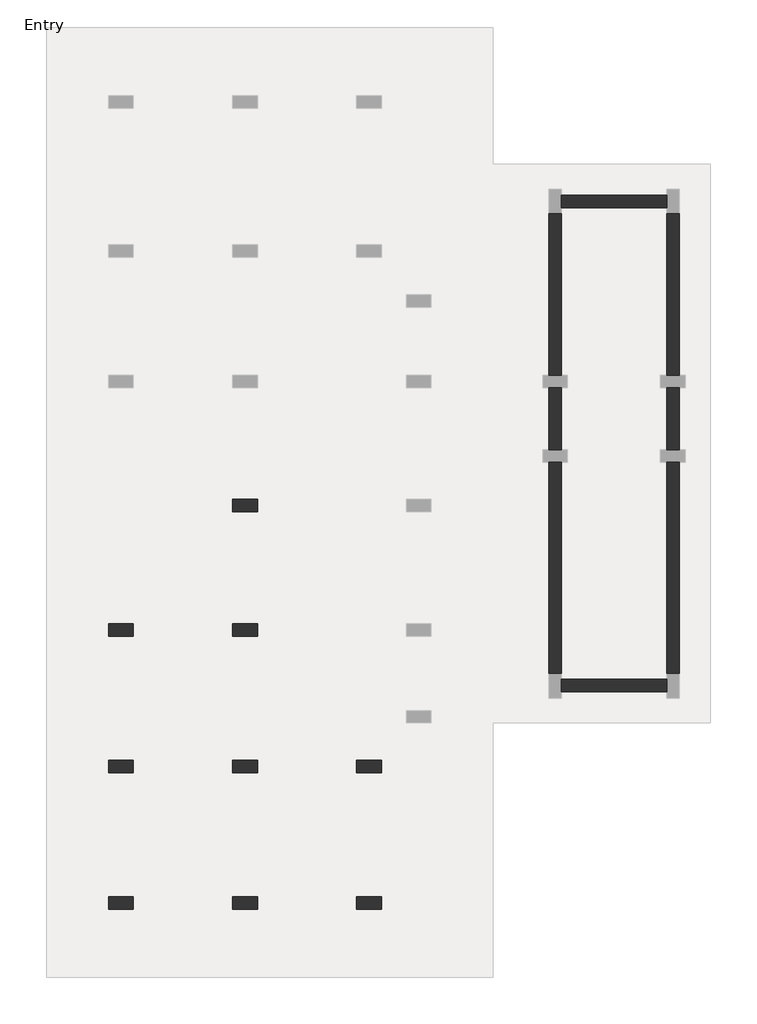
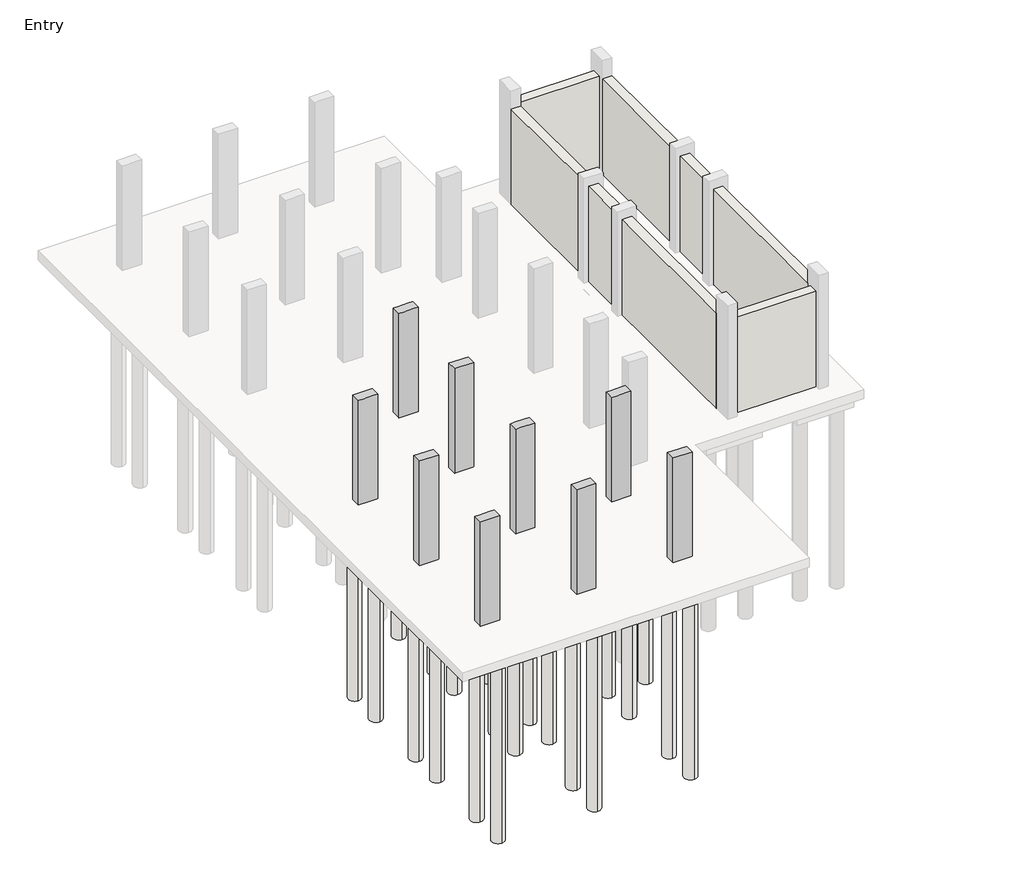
# One storey, part 1 of 3: 31 slabs, 9 columns, 8 walls.
"""IFC4 building model written with IfcOpenShell, lengths in millimetres."""

import ifcopenshell
import ifcopenshell.guid

model = None  # the IFC model being written
_history = None  # IfcOwnerHistory: only IFC2X3 demands one
_inside = {}  # id of a spatial element -> (the spatial element, [elements in it])
_under = {}  # id of a project, library or spatial element -> (it, [spatial elements below it])
_declared = {}  # id of a project -> (the project, [libraries it declares])
_typed = {}  # id of a type object -> (the type object, [elements of that type])
_made_of = {}  # id of a material, layer set ... -> (it, [elements and type objects made of it])


def new_model(schema):
    """Start an empty IFC model of exactly this schema.

    Asked for "IFC4X3", IfcOpenShell would pick the latest addendum, in which some entities
    have other attributes; the version numbers below select the first issue.
    IFC2X3 requires an IfcOwnerHistory on every rooted entity: one is made here for all.
    """
    global model, _history
    if schema == "IFC4X3":
        model = ifcopenshell.file(schema_version=(4, 3, 0, 0))
    else:
        model = ifcopenshell.file(schema=schema)
    _inside.clear()
    _under.clear()
    _declared.clear()
    _typed.clear()
    _made_of.clear()
    _history = None
    if model.schema == "IFC2X3":
        org = make("IfcOrganization", Name="unknown")
        user = make(
            "IfcPersonAndOrganization",
            ThePerson=make("IfcPerson", FamilyName="unknown"),
            TheOrganization=org,
        )
        app = make(
            "IfcApplication",
            ApplicationDeveloper=org,
            Version="unknown",
            ApplicationFullName="unknown",
            ApplicationIdentifier="unknown",
        )
        _history = make(
            "IfcOwnerHistory",
            OwningUser=user,
            OwningApplication=app,
            ChangeAction="ADDED",
            CreationDate=0,
        )
    return model


def make(cls, **values):
    """One entity of the class cls with the attributes given. An attribute that is None is left unset."""
    return model.create_entity(
        cls, **{name: value for name, value in values.items() if value is not None}
    )


def rooted(cls, **values):
    """An entity with a GlobalId (a new one), such as an element, a storey or a relation."""
    return make(cls, GlobalId=ifcopenshell.guid.new(), OwnerHistory=_history, **values)


def si_unit(unit_type, name, prefix=None):
    """IfcSIUnit, for example si_unit("LENGTHUNIT", "METRE", prefix="MILLI")."""
    return make("IfcSIUnit", UnitType=unit_type, Prefix=prefix, Name=name)


def assignment(units):
    """IfcUnitAssignment: the units of a project."""
    return None if units is None else make("IfcUnitAssignment", Units=units)


def point(xyz):
    """IfcCartesianPoint."""
    return None if xyz is None else make("IfcCartesianPoint", Coordinates=xyz)


def direction(xyz):
    """IfcDirection."""
    return None if xyz is None else make("IfcDirection", DirectionRatios=xyz)


def frame(location, z_axis=None, x_axis=None):
    """IfcAxis2Placement3D, a coordinate frame: its origin and axes. An axis left out is left unset."""
    return make(
        "IfcAxis2Placement3D",
        Location=point(location),
        Axis=direction(z_axis),
        RefDirection=direction(x_axis),
    )


def frame_2d(location, x_axis=None):
    """IfcAxis2Placement2D, a coordinate frame in the plane: its origin and x axis."""
    return make(
        "IfcAxis2Placement2D", Location=point(location), RefDirection=direction(x_axis)
    )


def origin():
    """The frame at (0, 0, 0) with its axes left unset."""
    return frame((0.0, 0.0, 0.0))


def origin_with_axes():
    """The frame at (0, 0, 0) with the z axis (0, 0, 1) and the x axis (1, 0, 0) written out."""
    return frame((0.0, 0.0, 0.0), z_axis=(0.0, 0.0, 1.0), x_axis=(1.0, 0.0, 0.0))


def place(relative_to, where):
    """IfcLocalPlacement: puts the frame where relative to a parent placement (None: the world)."""
    return make(
        "IfcLocalPlacement", PlacementRelTo=relative_to, RelativePlacement=where
    )


def context(
    kind, dimensions, precision=None, world=None, true_north=None, identifier=None
):
    """IfcGeometricRepresentationContext, for example the 3D "Model" context."""
    return make(
        "IfcGeometricRepresentationContext",
        ContextIdentifier=identifier,
        ContextType=kind,
        CoordinateSpaceDimension=dimensions,
        Precision=precision,
        WorldCoordinateSystem=world,
        TrueNorth=true_north,
    )


def project(units=None, contexts=None):
    """IfcProject with its units and contexts."""
    return rooted(
        "IfcProject",
        Name="project",
        RepresentationContexts=contexts,
        UnitsInContext=assignment(units),
    )


def spatial(cls, under=None, at=None, **own):
    """A site, building, storey or space (cls), placed at a placement, below another one or the project."""
    s = rooted(cls, ObjectPlacement=at, **own)
    if under is not None:
        _under.setdefault(under.id(), (under, []))[1].append(s)
    return s


def polyline(points):
    """IfcPolyline through the points."""
    return make("IfcPolyline", Points=[point(p) for p in points])


def circle_curve(where, radius):
    """IfcCircle in the frame where."""
    return make("IfcCircle", Position=where, Radius=radius)


def trimmed(basis, trim1, trim2, sense, master):
    """IfcTrimmedCurve: the piece of a basis curve between two trims."""
    return make(
        "IfcTrimmedCurve",
        BasisCurve=basis,
        Trim1=trim1,
        Trim2=trim2,
        SenseAgreement=sense,
        MasterRepresentation=master,
    )


def segment(curve, same_sense, transition):
    """IfcCompositeCurveSegment."""
    return make(
        "IfcCompositeCurveSegment",
        Transition=transition,
        SameSense=same_sense,
        ParentCurve=curve,
    )


def composite_curve(segments, self_intersect=None):
    """IfcCompositeCurve: segments joined end to end."""
    return make("IfcCompositeCurve", Segments=segments, SelfIntersect=self_intersect)


def outline(outer, holes=None, kind="AREA"):
    """IfcArbitraryClosedProfileDef: a profile drawn as a closed curve; with holes, ...WithVoids."""
    if holes is None:
        return make("IfcArbitraryClosedProfileDef", ProfileType=kind, OuterCurve=outer)
    return make(
        "IfcArbitraryProfileDefWithVoids",
        ProfileType=kind,
        OuterCurve=outer,
        InnerCurves=holes,
    )


def extrude(swept, where, along, depth):
    """IfcExtrudedAreaSolid: the profile swept, set in the frame where, extruded along a direction by depth."""
    return make(
        "IfcExtrudedAreaSolid",
        SweptArea=swept,
        Position=where,
        ExtrudedDirection=direction(along),
        Depth=depth,
    )


def faces_of(points, faces, orient=None, outer=None):
    """IfcFace entities. A face is a list of loops; a loop is a list of indices into points, from 0.

    orient and outer hold one flag for each loop. By default every Orientation is true, the
    first loop of a face is its IfcFaceOuterBound and the others are IfcFaceBound.
    """
    made = []
    for i, loops in enumerate(faces):
        bounds = []
        for j, loop in enumerate(loops):
            is_outer = j == 0 if outer is None else outer[i][j]
            bounds.append(
                make(
                    "IfcFaceOuterBound" if is_outer else "IfcFaceBound",
                    Bound=make("IfcPolyLoop", Polygon=[points[k] for k in loop]),
                    Orientation=True if orient is None else orient[i][j],
                )
            )
        made.append(make("IfcFace", Bounds=bounds))
    return made


def faceted_brep(points, faces, orient=None, outer=None, voids=None):
    """IfcFacetedBrep: a solid bounded by flat faces; with voids (closed shells), ...WithVoids."""
    shared = [point(p) for p in points]
    hull = make("IfcClosedShell", CfsFaces=faces_of(shared, faces, orient, outer))
    if voids is None:
        return make("IfcFacetedBrep", Outer=hull)
    return make(
        "IfcFacetedBrepWithVoids",
        Outer=hull,
        Voids=[
            make(cls, CfsFaces=faces_of(shared, fs, o, b)) for cls, fs, o, b in voids
        ],
    )


def shape(context_of_items, identifier, shape_type, items):
    """IfcShapeRepresentation: the items that make up one representation, for example the "Body"."""
    return make(
        "IfcShapeRepresentation",
        ContextOfItems=context_of_items,
        RepresentationIdentifier=identifier,
        RepresentationType=shape_type,
        Items=items,
    )


def made_of(thing, what):
    """Note that an element or type object is made of a material, layer set ...; save() writes the relation."""
    if what is not None:
        _made_of.setdefault(what.id(), (what, []))[1].append(thing)
    return thing


def element(
    cls,
    number,
    at=None,
    inside=None,
    cuts=None,
    type_object=None,
    material=None,
    context=None,
    identifier="Body",
    shape_type=None,
    held_by="IfcProductDefinitionShape",
    body=None,
    shapes=None,
    **own,
):
    """One element of the class cls, such as IfcWall. Its Tag is "e" and its number.

    at: its placement. inside: the storey or other place that contains it. cuts: it is an
    opening in that element (IfcRelVoidsElement). A single representation is given by context,
    identifier, shape_type and body (its items); several are given by shapes. held_by: the class
    of the entity that holds the representations. save() writes the other relations.
    """
    e = rooted(cls, Tag="e%d" % number, ObjectPlacement=at, **own)
    if body is not None:
        shapes = [shape(context, identifier, shape_type, body)]
    if shapes is not None:
        e.Representation = make(held_by, Representations=shapes)
    if inside is not None:
        _inside.setdefault(inside.id(), (inside, []))[1].append(e)
    if cuts is not None:
        rooted(
            "IfcRelVoidsElement", RelatingBuildingElement=cuts, RelatedOpeningElement=e
        )
    if type_object is not None:
        _typed.setdefault(type_object.id(), (type_object, []))[1].append(e)
    return made_of(e, material)


def aggregate(whole, parts):
    """IfcRelAggregates: a whole, such as a stair, and the parts it consists of."""
    return rooted("IfcRelAggregates", RelatingObject=whole, RelatedObjects=parts)


def save(model, path):
    """Write the relations noted so far, then the file.

    IfcRelAggregates (storeys below a building ...), IfcRelContainedInSpatialStructure (elements
    in a storey), IfcRelDefinesByType, IfcRelAssociatesMaterial and IfcRelDeclares: one each for
    every whole, place, type object, material and project.
    """
    for whole, parts in _under.values():
        aggregate(whole, parts)
    for where, things in _inside.values():
        rooted(
            "IfcRelContainedInSpatialStructure",
            RelatedElements=things,
            RelatingStructure=where,
        )
    for kind, things in _typed.values():
        rooted("IfcRelDefinesByType", RelatedObjects=things, RelatingType=kind)
    for what, things in _made_of.values():
        rooted("IfcRelAssociatesMaterial", RelatedObjects=things, RelatingMaterial=what)
    for by, libraries in _declared.values():
        rooted("IfcRelDeclares", RelatingContext=by, RelatedDefinitions=libraries)
    model.write(path)


model = new_model("IFC4")

# Units and contexts
model_context = context("Model", 3, world=origin())
ifc_project = project(units=[si_unit("LENGTHUNIT", "METRE", prefix="MILLI")], contexts=[model_context])

# Site, building, storey
site = spatial("IfcSite", under=ifc_project)
building = spatial("IfcBuilding", under=site)
storey = spatial("IfcBuildingStorey", under=building, Name="Entry", Elevation=0.0)

# Columns
placement = place(None, origin())
element("IfcColumn", 1, ObjectType="Concrete-Rectangular-Column : 12 x 24", at=placement, inside=storey, context=model_context, shape_type="Brep", body=[
    faceted_brep([(-10423.1073204, 13863.0572372, 0.0), (-9813.5073204, 13863.0572372, 0.0), (-9813.5073204, 13558.2572372, 0.0), (-10423.1073204, 13558.2572372, 0.0), (-10423.1073204, 13863.0572372, 3505.2), (-10270.7073204, 13863.0572372, 3505.2), (-9965.9073204, 13863.0572372, 3505.2), (-9813.5073204, 13863.0572372, 3505.2), (-9813.5073204, 13863.0572372, 2895.6), (-9813.5073204, 13558.2572372, 3505.2), (-9813.5073204, 13558.2572372, 2895.6), (-9965.9073204, 13558.2572372, 3505.2), (-10270.7073204, 13558.2572372, 3505.2), (-10423.1073204, 13558.2572372, 3505.2)], [[[0, 1, 2, 3]], [[4, 5, 6, 7, 8, 1, 0]], [[7, 9, 10, 2, 1, 8]], [[9, 11, 12, 13, 3, 2, 10]], [[13, 4, 0, 3]], [[4, 13, 12, 11, 9, 7, 6, 5]]]),
])
element("IfcColumn", 2, ObjectType="Concrete-Rectangular-Column : 12 x 24", at=placement, inside=storey, context=model_context, shape_type="Brep", body=[
    faceted_brep([(-13471.1073204, 10815.0572372, 0.0), (-12861.5073204, 10815.0572372, 0.0), (-12861.5073204, 10510.2572372, 0.0), (-13471.1073204, 10510.2572372, 0.0), (-13471.1073204, 10815.0572372, 3505.2), (-12861.5073204, 10815.0572372, 3505.2), (-12861.5073204, 10815.0572372, 2895.6), (-12861.5073204, 10510.2572372, 3505.2), (-12861.5073204, 10510.2572372, 2895.6), (-13013.9073204, 10510.2572372, 3505.2), (-13318.7073204, 10510.2572372, 3505.2), (-13471.1073204, 10510.2572372, 3505.2)], [[[0, 1, 2, 3]], [[4, 5, 6, 1, 0]], [[5, 7, 8, 2, 1, 6]], [[7, 9, 10, 11, 3, 2, 8]], [[11, 4, 0, 3]], [[4, 11, 10, 9, 7, 5]]]),
])
element("IfcColumn", 3, ObjectType="Concrete-Rectangular-Column : 12 x 24", at=placement, inside=storey, context=model_context, shape_type="Brep", body=[
    faceted_brep([(-10423.1073204, 10815.0572372, 0.0), (-9813.5073204, 10815.0572372, 0.0), (-9813.5073204, 10510.2572372, 0.0), (-10423.1073204, 10510.2572372, 0.0), (-10423.1073204, 10815.0572372, 3505.2), (-10270.7073204, 10815.0572372, 3505.2), (-9965.9073204, 10815.0572372, 3505.2), (-9813.5073204, 10815.0572372, 3505.2), (-9813.5073204, 10815.0572372, 2895.6), (-10423.1073204, 10815.0572372, 2895.6), (-9813.5073204, 10510.2572372, 3505.2), (-9813.5073204, 10510.2572372, 2895.6), (-9965.9073204, 10510.2572372, 3505.2), (-10270.7073204, 10510.2572372, 3505.2), (-10423.1073204, 10510.2572372, 3505.2), (-10423.1073204, 10510.2572372, 2895.6)], [[[0, 1, 2, 3]], [[4, 5, 6, 7, 8, 1, 0, 9]], [[7, 10, 11, 2, 1, 8]], [[10, 12, 13, 14, 15, 3, 2, 11]], [[14, 4, 9, 0, 3, 15]], [[4, 14, 13, 12, 10, 7, 6, 5]]]),
])
element("IfcColumn", 4, ObjectType="Concrete-Rectangular-Column : 12 x 24", at=placement, inside=storey, context=model_context, shape_type="Brep", body=[
    faceted_brep([(-7375.8500241, 7462.2572372, 0.0), (-6766.2500241, 7462.2572372, 0.0), (-6766.2500241, 7157.4572372, 0.0), (-7375.8500241, 7157.4572372, 0.0), (-7375.8500241, 7462.2572372, 3505.2), (-7223.4500241, 7462.2572372, 3505.2), (-6918.6500241, 7462.2572372, 3505.2), (-6766.2500241, 7462.2572372, 3505.2), (-7375.8500241, 7462.2572372, 2895.6), (-6766.2500241, 7157.4572372, 3505.2), (-6918.6500241, 7157.4572372, 3505.2), (-7223.4500241, 7157.4572372, 3505.2), (-7375.8500241, 7157.4572372, 3505.2), (-7375.8500241, 7157.4572372, 2895.6)], [[[0, 1, 2, 3]], [[4, 5, 6, 7, 1, 0, 8]], [[7, 9, 2, 1]], [[9, 10, 11, 12, 13, 3, 2]], [[12, 4, 8, 0, 3, 13]], [[4, 12, 11, 10, 9, 7, 6, 5]]]),
])
element("IfcColumn", 5, ObjectType="Concrete-Rectangular-Column : 12 x 24", at=placement, inside=storey, context=model_context, shape_type="Brep", body=[
    faceted_brep([(-10423.1073204, 7462.2572372, 0.0), (-9813.5073204, 7462.2572372, 0.0), (-9813.5073204, 7157.4572372, 0.0), (-10423.1073204, 7157.4572372, 0.0), (-10423.1073204, 7462.2572372, 3505.2), (-10270.7073204, 7462.2572372, 3505.2), (-9965.9073204, 7462.2572372, 3505.2), (-9813.5073204, 7462.2572372, 3505.2), (-9813.5073204, 7462.2572372, 2895.6), (-10423.1073204, 7462.2572372, 2895.6), (-9813.5073204, 7157.4572372, 3505.2), (-9813.5073204, 7157.4572372, 2895.6), (-9965.9073204, 7157.4572372, 3505.2), (-10270.7073204, 7157.4572372, 3505.2), (-10423.1073204, 7157.4572372, 3505.2), (-10423.1073204, 7157.4572372, 2895.6)], [[[0, 1, 2, 3]], [[4, 5, 6, 7, 8, 1, 0, 9]], [[7, 10, 11, 2, 1, 8]], [[10, 12, 13, 14, 15, 3, 2, 11]], [[14, 4, 9, 0, 3, 15]], [[4, 14, 13, 12, 10, 7, 6, 5]]]),
])
element("IfcColumn", 6, ObjectType="Concrete-Rectangular-Column : 12 x 24", at=placement, inside=storey, context=model_context, shape_type="Brep", body=[
    faceted_brep([(-13471.1073204, 7462.2572372, 0.0), (-12861.5073204, 7462.2572372, 0.0), (-12861.5073204, 7157.4572372, 0.0), (-13471.1073204, 7157.4572372, 0.0), (-13471.1073204, 7462.2572372, 3505.2), (-13318.7073204, 7462.2572372, 3505.2), (-13013.9073204, 7462.2572372, 3505.2), (-12861.5073204, 7462.2572372, 3505.2), (-12861.5073204, 7462.2572372, 2895.6), (-12861.5073204, 7157.4572372, 3505.2), (-12861.5073204, 7157.4572372, 2895.6), (-13013.9073204, 7157.4572372, 3505.2), (-13318.7073204, 7157.4572372, 3505.2), (-13471.1073204, 7157.4572372, 3505.2)], [[[0, 1, 2, 3]], [[4, 5, 6, 7, 8, 1, 0]], [[7, 9, 10, 2, 1, 8]], [[9, 11, 12, 13, 3, 2, 10]], [[13, 4, 0, 3]], [[4, 13, 12, 11, 9, 7, 6, 5]]]),
])
element("IfcColumn", 7, ObjectType="Concrete-Rectangular-Column : 12 x 24", at=placement, inside=storey, context=model_context, shape_type="Brep", body=[
    faceted_brep([(-13471.1073204, 4109.4572372, 0.0), (-12861.5073204, 4109.4572372, 0.0), (-12861.5073204, 3804.6572372, 0.0), (-13471.1073204, 3804.6572372, 0.0), (-13471.1073204, 4109.4572372, 3505.2), (-13318.7073204, 4109.4572372, 3505.2), (-13013.9073204, 4109.4572372, 3505.2), (-12861.5073204, 4109.4572372, 3505.2), (-12861.5073204, 4109.4572372, 2895.6), (-12861.5073204, 3804.6572372, 3505.2), (-12861.5073204, 3804.6572372, 2895.6), (-13471.1073204, 3804.6572372, 3505.2)], [[[0, 1, 2, 3]], [[4, 5, 6, 7, 8, 1, 0]], [[7, 9, 10, 2, 1, 8]], [[9, 11, 3, 2, 10]], [[11, 4, 0, 3]], [[4, 11, 9, 7, 6, 5]]]),
])
element("IfcColumn", 8, ObjectType="Concrete-Rectangular-Column : 12 x 24", at=placement, inside=storey, context=model_context, shape_type="Brep", body=[
    faceted_brep([(-10423.1073204, 4109.4572372, 0.0), (-9813.5073204, 4109.4572372, 0.0), (-9813.5073204, 3804.6572372, 0.0), (-10423.1073204, 3804.6572372, 0.0), (-10423.1073204, 4109.4572372, 3505.2), (-10270.7073204, 4109.4572372, 3505.2), (-9965.9073204, 4109.4572372, 3505.2), (-9813.5073204, 4109.4572372, 3505.2), (-9813.5073204, 4109.4572372, 2895.6), (-10423.1073204, 4109.4572372, 2895.6), (-9813.5073204, 3804.6572372, 3505.2), (-9813.5073204, 3804.6572372, 2895.6), (-10423.1073204, 3804.6572372, 3505.2), (-10423.1073204, 3804.6572372, 2895.6)], [[[0, 1, 2, 3]], [[4, 5, 6, 7, 8, 1, 0, 9]], [[7, 10, 11, 2, 1, 8]], [[10, 12, 13, 3, 2, 11]], [[12, 4, 9, 0, 3, 13]], [[4, 12, 10, 7, 6, 5]]]),
])
element("IfcColumn", 9, ObjectType="Concrete-Rectangular-Column : 12 x 24", at=placement, inside=storey, context=model_context, shape_type="Brep", body=[
    faceted_brep([(-7375.1073204, 4109.4572372, 0.0), (-6765.5073204, 4109.4572372, 0.0), (-6765.5073204, 3804.6572372, 0.0), (-7375.1073204, 3804.6572372, 0.0), (-7375.1073204, 4109.4572372, 3505.2), (-7223.4500241, 4109.4572372, 3505.2), (-6918.6500241, 4109.4572372, 3505.2), (-6765.5073204, 4109.4572372, 3505.2), (-7375.1073204, 4109.4572372, 2895.6), (-6765.5073204, 3804.6572372, 3505.2), (-7375.1073204, 3804.6572372, 3505.2), (-7375.1073204, 3804.6572372, 2895.6)], [[[0, 1, 2, 3]], [[4, 5, 6, 7, 1, 0, 8]], [[7, 9, 2, 1]], [[9, 10, 11, 3, 2]], [[10, 4, 8, 0, 3, 11]], [[4, 10, 9, 7, 6, 5]]]),
])

# Slabs
element("IfcSlab", 10, ObjectType="Pile Cap-2 Pile : 31\"x61\"x35\"", at=placement, inside=storey, context=model_context, shape_type="SweptSolid", body=[
    extrude(outline(polyline([(-13572.7073204, 11551.6572372), (-12759.9073204, 11551.6572372), (-12759.9073204, 9773.6572372), (-13572.7073204, 9773.6572372), (-13572.7073204, 11551.6572372)])), frame((0.0, 0.0, -889.0), z_axis=(0.0, 0.0, 1.0), x_axis=(1.0, 0.0, 0.0)), (0.0, 0.0, 1.0), 584.2),
])
element("IfcSlab", 11, ObjectType="Pile Cap-2 Pile : 31\"x61\"x35\"", at=placement, inside=storey, context=model_context, shape_type="SweptSolid", body=[
    extrude(outline(polyline([(-13572.7073204, 8198.8572372), (-12759.9073204, 8198.8572372), (-12759.9073204, 6420.8572372), (-13572.7073204, 6420.8572372), (-13572.7073204, 8198.8572372)])), frame((0.0, 0.0, -889.0), z_axis=(0.0, 0.0, 1.0), x_axis=(1.0, 0.0, 0.0)), (0.0, 0.0, 1.0), 584.2),
])
element("IfcSlab", 12, ObjectType="Pile Cap-2 Pile : 31\"x61\"x35\"", at=placement, inside=storey, context=model_context, shape_type="SweptSolid", body=[
    extrude(outline(polyline([(-13572.7073204, 4846.0572372), (-12759.9073204, 4846.0572372), (-12759.9073204, 3068.0572372), (-13572.7073204, 3068.0572372), (-13572.7073204, 4846.0572372)])), frame((0.0, 0.0, -889.0), z_axis=(0.0, 0.0, 1.0), x_axis=(1.0, 0.0, 0.0)), (0.0, 0.0, 1.0), 584.2),
])
element("IfcSlab", 13, ObjectType="Pile Cap-2 Pile : 31\"x61\"x35\"", at=placement, inside=storey, context=model_context, shape_type="SweptSolid", body=[
    extrude(outline(polyline([(-10524.7073204, 4846.0572372), (-9711.9073204, 4846.0572372), (-9711.9073204, 3068.0572372), (-10524.7073204, 3068.0572372), (-10524.7073204, 4846.0572372)])), frame((0.0, 0.0, -889.0), z_axis=(0.0, 0.0, 1.0), x_axis=(1.0, 0.0, 0.0)), (0.0, 0.0, 1.0), 584.2),
])
element("IfcSlab", 14, ObjectType="Pile Cap-2 Pile : 31\"x61\"x35\"", at=placement, inside=storey, context=model_context, shape_type="SweptSolid", body=[
    extrude(outline(polyline([(-7476.7073204, 4846.0572372), (-6663.9073204, 4846.0572372), (-6663.9073204, 3068.0572372), (-7476.7073204, 3068.0572372), (-7476.7073204, 4846.0572372)])), frame((0.0, 0.0, -889.0), z_axis=(0.0, 0.0, 1.0), x_axis=(1.0, 0.0, 0.0)), (0.0, 0.0, 1.0), 584.2),
])
element("IfcSlab", 15, ObjectType="Pile Cap-2 Pile : 31\"x61\"x35\"", at=placement, inside=storey, context=model_context, shape_type="SweptSolid", body=[
    extrude(outline(polyline([(-7477.4500241, 8198.8572372), (-6664.6500241, 8198.8572372), (-6664.6500241, 6420.8572372), (-7477.4500241, 6420.8572372), (-7477.4500241, 8198.8572372)])), frame((0.0, 0.0, -889.0), z_axis=(0.0, 0.0, 1.0), x_axis=(1.0, 0.0, 0.0)), (0.0, 0.0, 1.0), 584.2),
])
element("IfcSlab", 16, ObjectType="Pile Cap-4 Pile : 72\"x72\"x35\"", at=placement, inside=storey, context=model_context, shape_type="SweptSolid", body=[
    extrude(outline(polyline([(-11032.7073204, 14625.0572372), (-9203.9073204, 14625.0572372), (-9203.9073204, 12796.2572372), (-11032.7073204, 12796.2572372), (-11032.7073204, 14625.0572372)])), frame((0.0, 0.0, -889.0), z_axis=(0.0, 0.0, 1.0), x_axis=(1.0, 0.0, 0.0)), (0.0, 0.0, 1.0), 584.2),
])
element("IfcSlab", 17, ObjectType="Pile Cap-4 Pile : 72\"x72\"x35\"", at=placement, inside=storey, context=model_context, shape_type="SweptSolid", body=[
    extrude(outline(polyline([(-11032.7073204, 11577.0572372), (-9203.9073204, 11577.0572372), (-9203.9073204, 9748.2572372), (-11032.7073204, 9748.2572372), (-11032.7073204, 11577.0572372)])), frame((0.0, 0.0, -889.0), z_axis=(0.0, 0.0, 1.0), x_axis=(1.0, 0.0, 0.0)), (0.0, 0.0, 1.0), 584.2),
])
element("IfcSlab", 18, ObjectType="Pile Cap-4 Pile : 72\"x72\"x35\"", at=placement, inside=storey, context=model_context, shape_type="SweptSolid", body=[
    extrude(outline(polyline([(-11032.7073204, 8224.2572372), (-9203.9073204, 8224.2572372), (-9203.9073204, 6395.4572372), (-11032.7073204, 6395.4572372), (-11032.7073204, 8224.2572372)])), frame((0.0, 0.0, -889.0), z_axis=(0.0, 0.0, 1.0), x_axis=(1.0, 0.0, 0.0)), (0.0, 0.0, 1.0), 584.2),
])
element("IfcSlab", 19, ObjectType="Pile-Steel Pipe : 16\" Diameter", at=placement, inside=storey, context=model_context, shape_type="SweptSolid", body=[
    extrude(outline(composite_curve([segment(trimmed(circle_curve(frame_2d((-10651.7073204, 13177.2572372)), 203.2), [point((-10651.7073204, 12974.0572372))], [point((-10651.7073204, 13380.4572372))], False, "CARTESIAN"), True, "CONTINUOUS"), segment(trimmed(circle_curve(frame_2d((-10651.7073204, 13177.2572372)), 203.2), [point((-10651.7073204, 13380.4572372))], [point((-10651.7073204, 12974.0572372))], False, "CARTESIAN"), True, "CONTINUOUS")], self_intersect=False)), frame((0.0, 0.0, -6985.0), z_axis=(0.0, 0.0, 1.0), x_axis=(1.0, 0.0, 0.0)), (0.0, 0.0, 1.0), 6096.0),
])
element("IfcSlab", 20, ObjectType="Pile-Steel Pipe : 16\" Diameter", at=placement, inside=storey, context=model_context, shape_type="SweptSolid", body=[
    extrude(outline(composite_curve([segment(trimmed(circle_curve(frame_2d((-10651.7073204, 10129.2572372)), 203.2), [point((-10651.7073204, 9926.0572372))], [point((-10651.7073204, 10332.4572372))], False, "CARTESIAN"), True, "CONTINUOUS"), segment(trimmed(circle_curve(frame_2d((-10651.7073204, 10129.2572372)), 203.2), [point((-10651.7073204, 10332.4572372))], [point((-10651.7073204, 9926.0572372))], False, "CARTESIAN"), True, "CONTINUOUS")], self_intersect=False)), frame((0.0, 0.0, -6985.0), z_axis=(0.0, 0.0, 1.0), x_axis=(1.0, 0.0, 0.0)), (0.0, 0.0, 1.0), 6096.0),
])
element("IfcSlab", 21, ObjectType="Pile-Steel Pipe : 16\" Diameter", at=placement, inside=storey, context=model_context, shape_type="SweptSolid", body=[
    extrude(outline(composite_curve([segment(trimmed(circle_curve(frame_2d((-9584.9073204, 10129.2572372)), 203.2), [point((-9584.9073204, 9926.0572372))], [point((-9584.9073204, 10332.4572372))], False, "CARTESIAN"), True, "CONTINUOUS"), segment(trimmed(circle_curve(frame_2d((-9584.9073204, 10129.2572372)), 203.2), [point((-9584.9073204, 10332.4572372))], [point((-9584.9073204, 9926.0572372))], False, "CARTESIAN"), True, "CONTINUOUS")], self_intersect=False)), frame((0.0, 0.0, -6985.0), z_axis=(0.0, 0.0, 1.0), x_axis=(1.0, 0.0, 0.0)), (0.0, 0.0, 1.0), 6096.0),
])
element("IfcSlab", 22, ObjectType="Pile-Steel Pipe : 16\" Diameter", at=placement, inside=storey, context=model_context, shape_type="SweptSolid", body=[
    extrude(outline(composite_curve([segment(trimmed(circle_curve(frame_2d((-9584.9073204, 11196.0572372)), 203.2), [point((-9584.9073204, 10992.8572372))], [point((-9584.9073204, 11399.2572372))], False, "CARTESIAN"), True, "CONTINUOUS"), segment(trimmed(circle_curve(frame_2d((-9584.9073204, 11196.0572372)), 203.2), [point((-9584.9073204, 11399.2572372))], [point((-9584.9073204, 10992.8572372))], False, "CARTESIAN"), True, "CONTINUOUS")], self_intersect=False)), frame((0.0, 0.0, -6985.0), z_axis=(0.0, 0.0, 1.0), x_axis=(1.0, 0.0, 0.0)), (0.0, 0.0, 1.0), 6096.0),
])
element("IfcSlab", 23, ObjectType="Pile-Steel Pipe : 16\" Diameter", at=placement, inside=storey, context=model_context, shape_type="SweptSolid", body=[
    extrude(outline(composite_curve([segment(trimmed(circle_curve(frame_2d((-10651.7073204, 11196.0572372)), 203.2), [point((-10651.7073204, 10992.8572372))], [point((-10651.7073204, 11399.2572372))], False, "CARTESIAN"), True, "CONTINUOUS"), segment(trimmed(circle_curve(frame_2d((-10651.7073204, 11196.0572372)), 203.2), [point((-10651.7073204, 11399.2572372))], [point((-10651.7073204, 10992.8572372))], False, "CARTESIAN"), True, "CONTINUOUS")], self_intersect=False)), frame((0.0, 0.0, -6985.0), z_axis=(0.0, 0.0, 1.0), x_axis=(1.0, 0.0, 0.0)), (0.0, 0.0, 1.0), 6096.0),
])
element("IfcSlab", 24, ObjectType="Pile-Steel Pipe : 16\" Diameter", at=placement, inside=storey, context=model_context, shape_type="SweptSolid", body=[
    extrude(outline(composite_curve([segment(trimmed(circle_curve(frame_2d((-10651.7073204, 6776.4572372)), 203.2), [point((-10651.7073204, 6573.2572372))], [point((-10651.7073204, 6979.6572372))], False, "CARTESIAN"), True, "CONTINUOUS"), segment(trimmed(circle_curve(frame_2d((-10651.7073204, 6776.4572372)), 203.2), [point((-10651.7073204, 6979.6572372))], [point((-10651.7073204, 6573.2572372))], False, "CARTESIAN"), True, "CONTINUOUS")], self_intersect=False)), frame((0.0, 0.0, -6985.0), z_axis=(0.0, 0.0, 1.0), x_axis=(1.0, 0.0, 0.0)), (0.0, 0.0, 1.0), 6096.0),
])
element("IfcSlab", 25, ObjectType="Pile-Steel Pipe : 16\" Diameter", at=placement, inside=storey, context=model_context, shape_type="SweptSolid", body=[
    extrude(outline(composite_curve([segment(trimmed(circle_curve(frame_2d((-9584.9073204, 6776.4572372)), 203.2), [point((-9584.9073204, 6573.2572372))], [point((-9584.9073204, 6979.6572372))], False, "CARTESIAN"), True, "CONTINUOUS"), segment(trimmed(circle_curve(frame_2d((-9584.9073204, 6776.4572372)), 203.2), [point((-9584.9073204, 6979.6572372))], [point((-9584.9073204, 6573.2572372))], False, "CARTESIAN"), True, "CONTINUOUS")], self_intersect=False)), frame((0.0, 0.0, -6985.0), z_axis=(0.0, 0.0, 1.0), x_axis=(1.0, 0.0, 0.0)), (0.0, 0.0, 1.0), 6096.0),
])
element("IfcSlab", 26, ObjectType="Pile-Steel Pipe : 16\" Diameter", at=placement, inside=storey, context=model_context, shape_type="SweptSolid", body=[
    extrude(outline(composite_curve([segment(trimmed(circle_curve(frame_2d((-9584.9073204, 7843.2572372)), 203.2), [point((-9584.9073204, 7640.0572372))], [point((-9584.9073204, 8046.4572372))], False, "CARTESIAN"), True, "CONTINUOUS"), segment(trimmed(circle_curve(frame_2d((-9584.9073204, 7843.2572372)), 203.2), [point((-9584.9073204, 8046.4572372))], [point((-9584.9073204, 7640.0572372))], False, "CARTESIAN"), True, "CONTINUOUS")], self_intersect=False)), frame((0.0, 0.0, -6985.0), z_axis=(0.0, 0.0, 1.0), x_axis=(1.0, 0.0, 0.0)), (0.0, 0.0, 1.0), 6096.0),
])
element("IfcSlab", 27, ObjectType="Pile-Steel Pipe : 16\" Diameter", at=placement, inside=storey, context=model_context, shape_type="SweptSolid", body=[
    extrude(outline(composite_curve([segment(trimmed(circle_curve(frame_2d((-10651.7073204, 7843.2572372)), 203.2), [point((-10651.7073204, 7640.0572372))], [point((-10651.7073204, 8046.4572372))], False, "CARTESIAN"), True, "CONTINUOUS"), segment(trimmed(circle_curve(frame_2d((-10651.7073204, 7843.2572372)), 203.2), [point((-10651.7073204, 8046.4572372))], [point((-10651.7073204, 7640.0572372))], False, "CARTESIAN"), True, "CONTINUOUS")], self_intersect=False)), frame((0.0, 0.0, -6985.0), z_axis=(0.0, 0.0, 1.0), x_axis=(1.0, 0.0, 0.0)), (0.0, 0.0, 1.0), 6096.0),
])
element("IfcSlab", 28, ObjectType="Pile-Steel Pipe : 16\" Diameter", at=placement, inside=storey, context=model_context, shape_type="SweptSolid", body=[
    extrude(outline(composite_curve([segment(trimmed(circle_curve(frame_2d((-13166.3073204, 10078.4572372)), 203.2), [point((-13166.3073204, 9875.2572372))], [point((-13166.3073204, 10281.6572372))], False, "CARTESIAN"), True, "CONTINUOUS"), segment(trimmed(circle_curve(frame_2d((-13166.3073204, 10078.4572372)), 203.2), [point((-13166.3073204, 10281.6572372))], [point((-13166.3073204, 9875.2572372))], False, "CARTESIAN"), True, "CONTINUOUS")], self_intersect=False)), frame((0.0, 0.0, -6985.0), z_axis=(0.0, 0.0, 1.0), x_axis=(1.0, 0.0, 0.0)), (0.0, 0.0, 1.0), 6096.0),
])
element("IfcSlab", 29, ObjectType="Pile-Steel Pipe : 16\" Diameter", at=placement, inside=storey, context=model_context, shape_type="SweptSolid", body=[
    extrude(outline(composite_curve([segment(trimmed(circle_curve(frame_2d((-13166.3073204, 11246.8572372)), 203.2), [point((-13166.3073204, 11043.6572372))], [point((-13166.3073204, 11450.0572372))], False, "CARTESIAN"), True, "CONTINUOUS"), segment(trimmed(circle_curve(frame_2d((-13166.3073204, 11246.8572372)), 203.2), [point((-13166.3073204, 11450.0572372))], [point((-13166.3073204, 11043.6572372))], False, "CARTESIAN"), True, "CONTINUOUS")], self_intersect=False)), frame((0.0, 0.0, -6985.0), z_axis=(0.0, 0.0, 1.0), x_axis=(1.0, 0.0, 0.0)), (0.0, 0.0, 1.0), 6096.0),
])
element("IfcSlab", 30, ObjectType="Pile-Steel Pipe : 16\" Diameter", at=placement, inside=storey, context=model_context, shape_type="SweptSolid", body=[
    extrude(outline(composite_curve([segment(trimmed(circle_curve(frame_2d((-13166.3073204, 6725.6572372)), 203.2), [point((-13166.3073204, 6522.4572372))], [point((-13166.3073204, 6928.8572372))], False, "CARTESIAN"), True, "CONTINUOUS"), segment(trimmed(circle_curve(frame_2d((-13166.3073204, 6725.6572372)), 203.2), [point((-13166.3073204, 6928.8572372))], [point((-13166.3073204, 6522.4572372))], False, "CARTESIAN"), True, "CONTINUOUS")], self_intersect=False)), frame((0.0, 0.0, -6985.0), z_axis=(0.0, 0.0, 1.0), x_axis=(1.0, 0.0, 0.0)), (0.0, 0.0, 1.0), 6096.0),
])
element("IfcSlab", 31, ObjectType="Pile-Steel Pipe : 16\" Diameter", at=placement, inside=storey, context=model_context, shape_type="SweptSolid", body=[
    extrude(outline(composite_curve([segment(trimmed(circle_curve(frame_2d((-13166.3073204, 7894.0572372)), 203.2), [point((-13166.3073204, 7690.8572372))], [point((-13166.3073204, 8097.2572372))], False, "CARTESIAN"), True, "CONTINUOUS"), segment(trimmed(circle_curve(frame_2d((-13166.3073204, 7894.0572372)), 203.2), [point((-13166.3073204, 8097.2572372))], [point((-13166.3073204, 7690.8572372))], False, "CARTESIAN"), True, "CONTINUOUS")], self_intersect=False)), frame((0.0, 0.0, -6985.0), z_axis=(0.0, 0.0, 1.0), x_axis=(1.0, 0.0, 0.0)), (0.0, 0.0, 1.0), 6096.0),
])
element("IfcSlab", 32, ObjectType="Pile-Steel Pipe : 16\" Diameter", at=placement, inside=storey, context=model_context, shape_type="SweptSolid", body=[
    extrude(outline(composite_curve([segment(trimmed(circle_curve(frame_2d((-13166.3073204, 3372.8572372)), 203.2), [point((-13166.3073204, 3169.6572372))], [point((-13166.3073204, 3576.0572372))], False, "CARTESIAN"), True, "CONTINUOUS"), segment(trimmed(circle_curve(frame_2d((-13166.3073204, 3372.8572372)), 203.2), [point((-13166.3073204, 3576.0572372))], [point((-13166.3073204, 3169.6572372))], False, "CARTESIAN"), True, "CONTINUOUS")], self_intersect=False)), frame((0.0, 0.0, -6985.0), z_axis=(0.0, 0.0, 1.0), x_axis=(1.0, 0.0, 0.0)), (0.0, 0.0, 1.0), 6096.0),
])
element("IfcSlab", 33, ObjectType="Pile-Steel Pipe : 16\" Diameter", at=placement, inside=storey, context=model_context, shape_type="SweptSolid", body=[
    extrude(outline(composite_curve([segment(trimmed(circle_curve(frame_2d((-13166.3073204, 4541.2572372)), 203.2), [point((-13166.3073204, 4338.0572372))], [point((-13166.3073204, 4744.4572372))], False, "CARTESIAN"), True, "CONTINUOUS"), segment(trimmed(circle_curve(frame_2d((-13166.3073204, 4541.2572372)), 203.2), [point((-13166.3073204, 4744.4572372))], [point((-13166.3073204, 4338.0572372))], False, "CARTESIAN"), True, "CONTINUOUS")], self_intersect=False)), frame((0.0, 0.0, -6985.0), z_axis=(0.0, 0.0, 1.0), x_axis=(1.0, 0.0, 0.0)), (0.0, 0.0, 1.0), 6096.0),
])
element("IfcSlab", 34, ObjectType="Pile-Steel Pipe : 16\" Diameter", at=placement, inside=storey, context=model_context, shape_type="SweptSolid", body=[
    extrude(outline(composite_curve([segment(trimmed(circle_curve(frame_2d((-10118.3073204, 3372.8572372)), 203.2), [point((-10118.3073204, 3169.6572372))], [point((-10118.3073204, 3576.0572372))], False, "CARTESIAN"), True, "CONTINUOUS"), segment(trimmed(circle_curve(frame_2d((-10118.3073204, 3372.8572372)), 203.2), [point((-10118.3073204, 3576.0572372))], [point((-10118.3073204, 3169.6572372))], False, "CARTESIAN"), True, "CONTINUOUS")], self_intersect=False)), frame((0.0, 0.0, -6985.0), z_axis=(0.0, 0.0, 1.0), x_axis=(1.0, 0.0, 0.0)), (0.0, 0.0, 1.0), 6096.0),
])
element("IfcSlab", 35, ObjectType="Pile-Steel Pipe : 16\" Diameter", at=placement, inside=storey, context=model_context, shape_type="SweptSolid", body=[
    extrude(outline(composite_curve([segment(trimmed(circle_curve(frame_2d((-10118.3073204, 4541.2572372)), 203.2), [point((-10118.3073204, 4338.0572372))], [point((-10118.3073204, 4744.4572372))], False, "CARTESIAN"), True, "CONTINUOUS"), segment(trimmed(circle_curve(frame_2d((-10118.3073204, 4541.2572372)), 203.2), [point((-10118.3073204, 4744.4572372))], [point((-10118.3073204, 4338.0572372))], False, "CARTESIAN"), True, "CONTINUOUS")], self_intersect=False)), frame((0.0, 0.0, -6985.0), z_axis=(0.0, 0.0, 1.0), x_axis=(1.0, 0.0, 0.0)), (0.0, 0.0, 1.0), 6096.0),
])
element("IfcSlab", 36, ObjectType="Pile-Steel Pipe : 16\" Diameter", at=placement, inside=storey, context=model_context, shape_type="SweptSolid", body=[
    extrude(outline(composite_curve([segment(trimmed(circle_curve(frame_2d((-7070.3073204, 3372.8572372)), 203.2), [point((-7070.3073204, 3169.6572372))], [point((-7070.3073204, 3576.0572372))], False, "CARTESIAN"), True, "CONTINUOUS"), segment(trimmed(circle_curve(frame_2d((-7070.3073204, 3372.8572372)), 203.2), [point((-7070.3073204, 3576.0572372))], [point((-7070.3073204, 3169.6572372))], False, "CARTESIAN"), True, "CONTINUOUS")], self_intersect=False)), frame((0.0, 0.0, -6985.0), z_axis=(0.0, 0.0, 1.0), x_axis=(1.0, 0.0, 0.0)), (0.0, 0.0, 1.0), 6096.0),
])
element("IfcSlab", 37, ObjectType="Pile-Steel Pipe : 16\" Diameter", at=placement, inside=storey, context=model_context, shape_type="SweptSolid", body=[
    extrude(outline(composite_curve([segment(trimmed(circle_curve(frame_2d((-7070.3073204, 4541.2572372)), 203.2), [point((-7070.3073204, 4338.0572372))], [point((-7070.3073204, 4744.4572372))], False, "CARTESIAN"), True, "CONTINUOUS"), segment(trimmed(circle_curve(frame_2d((-7070.3073204, 4541.2572372)), 203.2), [point((-7070.3073204, 4744.4572372))], [point((-7070.3073204, 4338.0572372))], False, "CARTESIAN"), True, "CONTINUOUS")], self_intersect=False)), frame((0.0, 0.0, -6985.0), z_axis=(0.0, 0.0, 1.0), x_axis=(1.0, 0.0, 0.0)), (0.0, 0.0, 1.0), 6096.0),
])
element("IfcSlab", 38, ObjectType="Pile-Steel Pipe : 16\" Diameter", at=placement, inside=storey, context=model_context, shape_type="SweptSolid", body=[
    extrude(outline(composite_curve([segment(trimmed(circle_curve(frame_2d((-7071.0500241, 6725.6572372)), 203.2), [point((-7071.0500241, 6522.4572372))], [point((-7071.0500241, 6928.8572372))], False, "CARTESIAN"), True, "CONTINUOUS"), segment(trimmed(circle_curve(frame_2d((-7071.0500241, 6725.6572372)), 203.2), [point((-7071.0500241, 6928.8572372))], [point((-7071.0500241, 6522.4572372))], False, "CARTESIAN"), True, "CONTINUOUS")], self_intersect=False)), frame((0.0, 0.0, -6985.0), z_axis=(0.0, 0.0, 1.0), x_axis=(1.0, 0.0, 0.0)), (0.0, 0.0, 1.0), 6096.0),
])
element("IfcSlab", 39, ObjectType="Pile-Steel Pipe : 16\" Diameter", at=placement, inside=storey, context=model_context, shape_type="SweptSolid", body=[
    extrude(outline(composite_curve([segment(trimmed(circle_curve(frame_2d((-7071.0500241, 7894.0572372)), 203.2), [point((-7071.0500241, 7690.8572372))], [point((-7071.0500241, 8097.2572372))], False, "CARTESIAN"), True, "CONTINUOUS"), segment(trimmed(circle_curve(frame_2d((-7071.0500241, 7894.0572372)), 203.2), [point((-7071.0500241, 8097.2572372))], [point((-7071.0500241, 7690.8572372))], False, "CARTESIAN"), True, "CONTINUOUS")], self_intersect=False)), frame((0.0, 0.0, -6985.0), z_axis=(0.0, 0.0, 1.0), x_axis=(1.0, 0.0, 0.0)), (0.0, 0.0, 1.0), 6096.0),
])
element("IfcSlab", 40, ObjectType="Pile-Steel Pipe : 16\" Diameter", at=placement, inside=storey, context=model_context, shape_type="SweptSolid", body=[
    extrude(outline(composite_curve([segment(trimmed(circle_curve(frame_2d((-5851.8500241, 7944.8572372)), 203.2), [point((-5851.8500241, 7741.6572372))], [point((-5851.8500241, 8148.0572372))], False, "CARTESIAN"), True, "CONTINUOUS"), segment(trimmed(circle_curve(frame_2d((-5851.8500241, 7944.8572372)), 203.2), [point((-5851.8500241, 8148.0572372))], [point((-5851.8500241, 7741.6572372))], False, "CARTESIAN"), True, "CONTINUOUS")], self_intersect=False)), frame((0.0, 0.0, -6985.0), z_axis=(0.0, 0.0, 1.0), x_axis=(1.0, 0.0, 0.0)), (0.0, 0.0, 1.0), 6096.0),
])

# Walls
element("IfcWall", 41, ObjectType="Core-Shaft - 12\" Concrete", at=placement, inside=storey, context=model_context, shape_type="SweptSolid", body=[
    extrude(outline(polyline([(242.3860546, 21025.8572372), (-2346.6500241, 21025.8572372), (-2346.6500241, 21330.6572372), (242.3860546, 21330.6572372), (242.3860546, 21025.8572372)])), origin_with_axes(), (0.0, 0.0, 1.0), 3200.4),
])
element("IfcWall", 42, ObjectType="Core-Shaft - 12\" Concrete", at=placement, inside=storey, context=model_context, shape_type="SweptSolid", body=[
    extrude(outline(polyline([(242.3860546, 16911.0572372), (242.3860546, 20873.4572372), (547.1860546, 20873.4572372), (547.1860546, 16911.0572372), (242.3860546, 16911.0572372)])), origin_with_axes(), (0.0, 0.0, 1.0), 3200.4),
])
element("IfcWall", 43, ObjectType="Core-Shaft - 12\" Concrete", at=placement, inside=storey, context=model_context, shape_type="SweptSolid", body=[
    extrude(outline(polyline([(242.3860546, 15082.2572372), (242.3860546, 16606.2572372), (547.1860546, 16606.2572372), (547.1860546, 15082.2572372), (242.3860546, 15082.2572372)])), origin_with_axes(), (0.0, 0.0, 1.0), 3200.4),
])
element("IfcWall", 44, ObjectType="Core-Shaft - 12\" Concrete", at=placement, inside=storey, context=model_context, shape_type="SweptSolid", body=[
    extrude(outline(polyline([(242.3860546, 9595.8572372), (242.3860546, 14777.4572372), (547.1860546, 14777.4572372), (547.1860546, 9595.8572372), (242.3860546, 9595.8572372)])), origin_with_axes(), (0.0, 0.0, 1.0), 3200.4),
])
element("IfcWall", 45, ObjectType="Core-Shaft - 12\" Concrete", at=placement, inside=storey, context=model_context, shape_type="SweptSolid", body=[
    extrude(outline(polyline([(-2346.6500241, 9443.4572372), (242.3860546, 9443.4572372), (242.3860546, 9138.6572372), (-2346.6500241, 9138.6572372), (-2346.6500241, 9443.4572372)])), origin_with_axes(), (0.0, 0.0, 1.0), 3200.4),
])
element("IfcWall", 46, ObjectType="Core-Shaft - 12\" Concrete", at=placement, inside=storey, context=model_context, shape_type="SweptSolid", body=[
    extrude(outline(polyline([(-2346.6500241, 14777.4572372), (-2346.6500241, 9595.8572372), (-2651.4500241, 9595.8572372), (-2651.4500241, 14777.4572372), (-2346.6500241, 14777.4572372)])), origin_with_axes(), (0.0, 0.0, 1.0), 3200.4),
])
element("IfcWall", 47, ObjectType="Core-Shaft - 12\" Concrete", at=placement, inside=storey, context=model_context, shape_type="SweptSolid", body=[
    extrude(outline(polyline([(-2346.6500241, 20873.4572372), (-2346.6500241, 16911.0572372), (-2651.4500241, 16911.0572372), (-2651.4500241, 20873.4572372), (-2346.6500241, 20873.4572372)])), origin_with_axes(), (0.0, 0.0, 1.0), 3200.4),
])
element("IfcWall", 48, ObjectType="Core-Shaft - 12\" Concrete", at=placement, inside=storey, context=model_context, shape_type="SweptSolid", body=[
    extrude(outline(polyline([(-2651.4500241, 15082.2572372), (-2651.4500241, 16606.2572372), (-2346.6500241, 16606.2572372), (-2346.6500241, 15082.2572372), (-2651.4500241, 15082.2572372)])), origin_with_axes(), (0.0, 0.0, 1.0), 3200.4),
])

save(model, "model.ifc")
